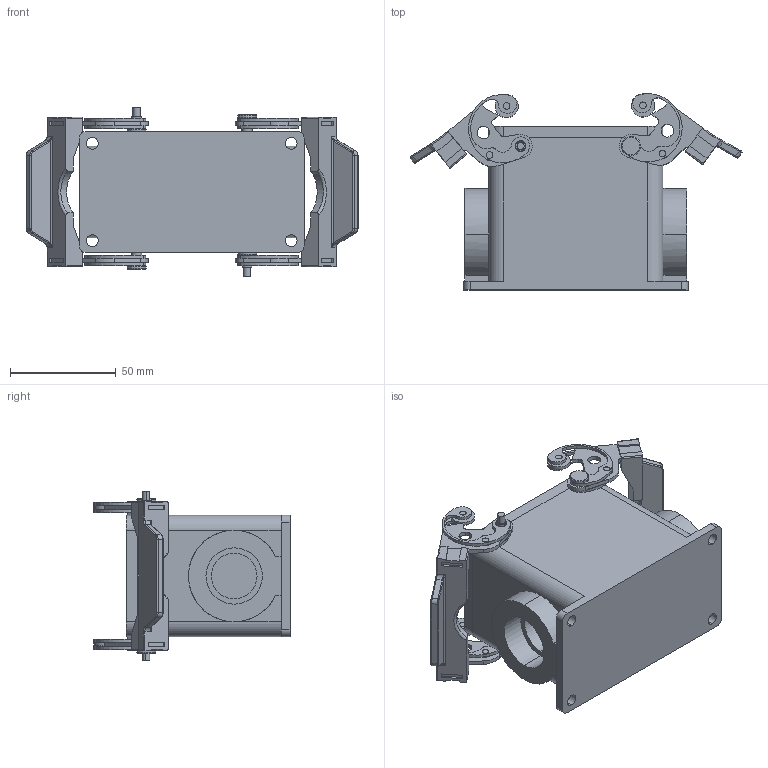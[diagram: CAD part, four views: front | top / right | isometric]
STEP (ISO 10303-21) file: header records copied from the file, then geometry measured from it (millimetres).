
FILE_DESCRIPTION (( 'STEP AP214' ), '1' );
FILE_NAME ('CHP-50.221.STEP', '2007-08-14T12:20:18', ( 'Bruce Mistarz' ), ( 'Mencom Corp' ), 'SwSTEP 2.0', 'SolidWorks 2007', '' );
FILE_SCHEMA (( 'AUTOMOTIVE_DESIGN' ));
Length unit declared in the file: inch
Products named in the file (10): CHP-50.221; 32LS LATCH RIVET; LATCH LEFT; CHP50 GASKET; CHP-50CS HOUSING; 32LS RIVET; 32LS FRAME; 32LS LATCH WHEEL; CHI-50 HANDLE; 32LS LATCH
Assembly tree (15 placements, depth 3):
  CHP-50.221
    LATCH LEFT  x4
      32LS LATCH RIVET
      32LS LATCH
      32LS RIVET
      32LS FRAME
      32LS LATCH WHEEL
    CHP-50CS HOUSING
    CHP50 GASKET
    CHI-50 HANDLE  x2
Bounding box: 156.98 x 92.77 x 80.26 mm (x, y, z)
Volume: 177436.6 mm3; surface area: 83890.5 mm2
Topology: 32 solids, 32 shells, 723 faces, 1800 edges, 1176 vertices
Faces by surface type: cylinder 414, plane 271, bspline 20, torus 18
Entity records: 10714 total; most frequent: CARTESIAN_POINT 1916, DIRECTION 1605, ORIENTED_EDGE 1500, EDGE_CURVE 750, AXIS2_PLACEMENT_3D 589, VERTEX_POINT 490, VECTOR 427, LINE 427
